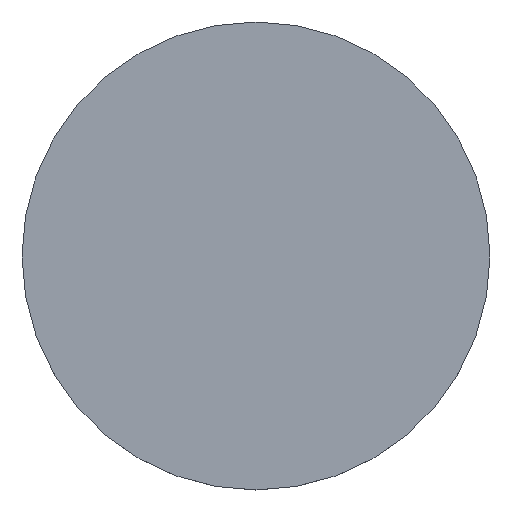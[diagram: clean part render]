
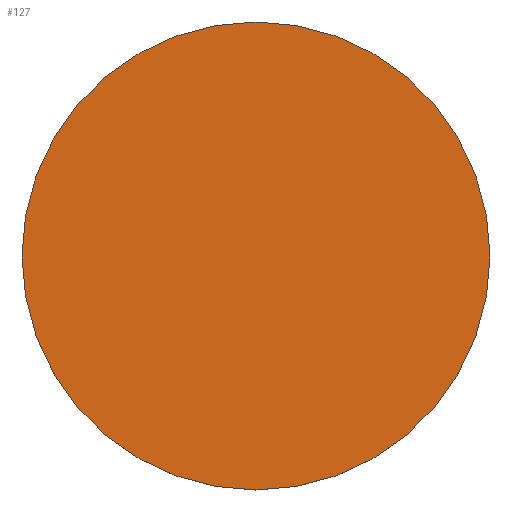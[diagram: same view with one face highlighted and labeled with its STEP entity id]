
A CAD part, top view. The second image highlights one B-rep face of the part: STEP entity #127.
In plain terms, the highlighted planar face has unit normal (0, 0, 1).
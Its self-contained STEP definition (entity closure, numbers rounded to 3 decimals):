
#42 = VERTEX_POINT('',#43);
#43 = CARTESIAN_POINT('',(200.,0.,18.));
#50 = CYLINDRICAL_SURFACE('',#51,200.);
#51 = AXIS2_PLACEMENT_3D('',#52,#53,#54);
#52 = CARTESIAN_POINT('',(0.,0.,0.));
#53 = DIRECTION('',(-0.,-0.,-1.));
#54 = DIRECTION('',(1.,0.,0.));
#69 = EDGE_CURVE('',#42,#42,#70,.T.);
#70 = SURFACE_CURVE('',#71,(#76,#83),.PCURVE_S1.);
#71 = CIRCLE('',#72,200.);
#72 = AXIS2_PLACEMENT_3D('',#73,#74,#75);
#73 = CARTESIAN_POINT('',(0.,0.,18.));
#74 = DIRECTION('',(0.,0.,1.));
#75 = DIRECTION('',(1.,0.,0.));
#76 = PCURVE('',#50,#77);
#77 = DEFINITIONAL_REPRESENTATION('',(#78),#82);
#78 = LINE('',#79,#80);
#79 = CARTESIAN_POINT('',(-0.,-18.));
#80 = VECTOR('',#81,1.);
#81 = DIRECTION('',(-1.,0.));
#82 = ( GEOMETRIC_REPRESENTATION_CONTEXT(2) 
PARAMETRIC_REPRESENTATION_CONTEXT() REPRESENTATION_CONTEXT('2D SPACE',''
  ) );
#83 = PCURVE('',#84,#89);
#84 = PLANE('',#85);
#85 = AXIS2_PLACEMENT_3D('',#86,#87,#88);
#86 = CARTESIAN_POINT('',(0.,0.,18.));
#87 = DIRECTION('',(0.,0.,1.));
#88 = DIRECTION('',(1.,0.,-0.));
#89 = DEFINITIONAL_REPRESENTATION('',(#90),#94);
#90 = CIRCLE('',#91,200.);
#91 = AXIS2_PLACEMENT_2D('',#92,#93);
#92 = CARTESIAN_POINT('',(0.,0.));
#93 = DIRECTION('',(1.,0.));
#94 = ( GEOMETRIC_REPRESENTATION_CONTEXT(2) 
PARAMETRIC_REPRESENTATION_CONTEXT() REPRESENTATION_CONTEXT('2D SPACE',''
  ) );
#127 = ADVANCED_FACE('',(#128),#84,.T.);
#128 = FACE_BOUND('',#129,.T.);
#129 = EDGE_LOOP('',(#130));
#130 = ORIENTED_EDGE('',*,*,#69,.T.);
